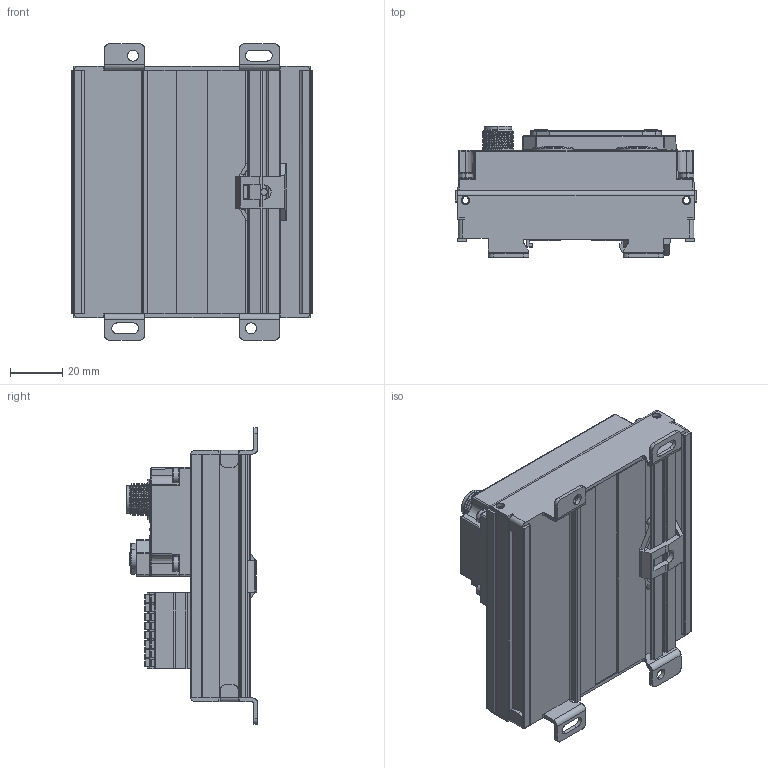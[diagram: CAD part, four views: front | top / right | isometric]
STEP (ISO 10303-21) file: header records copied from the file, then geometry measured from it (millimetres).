
FILE_DESCRIPTION (( 'STEP AP203' ), '1' );
FILE_NAME ('009D11.STEP', '2024-05-30T01:37:40', ( 'L' ), ( '' ), 'SwSTEP 2.0', 'SolidWorks 2019', '' );
FILE_SCHEMA (( 'CONFIG_CONTROL_DESIGN' ));
Products named in the file (1): 009D11
Bounding box: 92 x 50.1 x 113 mm (x, y, z)
Volume: 242015 mm3; surface area: 56255 mm2
Topology: 1 solids, 1 shells, 4932 faces, 13451 edges, 8801 vertices
Faces by surface type: plane 2827, cylinder 1215, bspline 642, cone 232, torus 12, sphere 4
Entity records: 204247 total; most frequent: CARTESIAN_POINT 89661, ORIENTED_EDGE 26844, DIRECTION 18744, EDGE_CURVE 13422, VERTEX_POINT 8800, VECTOR 8096, LINE 8096, AXIS2_PLACEMENT_3D 5324
